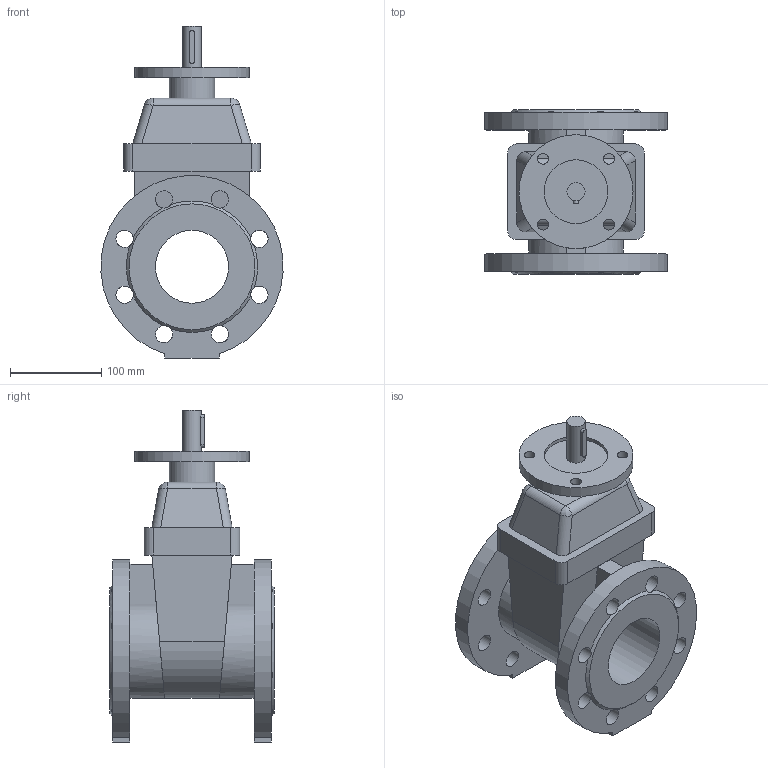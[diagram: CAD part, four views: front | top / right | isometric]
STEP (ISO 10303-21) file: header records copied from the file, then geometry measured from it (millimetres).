
FILE_DESCRIPTION(('STEP AP203'), '1');
FILE_NAME('Çàäâèæêà 47GVA DN80 PN10_PN16 áåç èñïîëíèò. ìåõ.', '', ('UNSPECIFIED'), ('UNSPECIFIED'), 'ASCON STEP Converter 1.6', 'ASCON Math Kernel', '');
FILE_SCHEMA(('CONFIG_CONTROL_DESIGN'));
Length unit declared in the file: millimetre
Bounding box: 199.61 x 180 x 364 mm (x, y, z)
Volume: 3368659.3 mm3; surface area: 331647.6 mm2
Topology: 1 solids, 1 shells, 109 faces, 320 edges, 206 vertices
Faces by surface type: cylinder 52, plane 51, bspline 4, cone 2
Full cylindrical faces by diameter (mm): 12 x4, 19 x16, 20 x1, 50 x1, 70 x1, 80 x1, 125 x1
Entity records: 6178 total; most frequent: CARTESIAN_POINT 2398, DIRECTION 596, ORIENTED_EDGE 572, EDGE_CURVE 286, AXIS2_PLACEMENT_3D 234, VERTEX_POINT 204, EDGE_LOOP 176, FACE_BOUND 140
